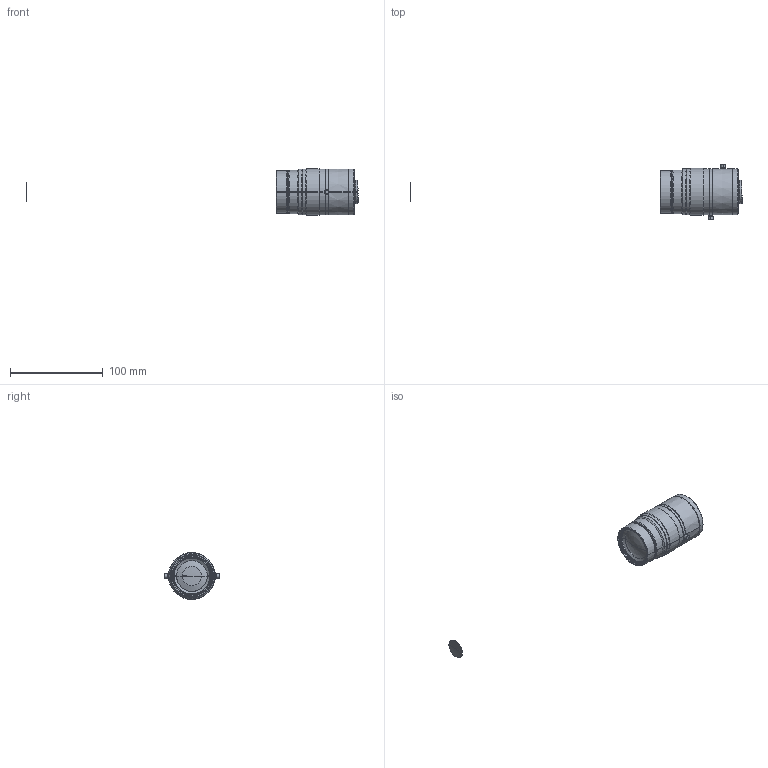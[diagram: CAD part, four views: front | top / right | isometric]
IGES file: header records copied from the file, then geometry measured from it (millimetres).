
Start section: SolidWorks IGES file using analytic representation for surfaces
Global section: file name: C:\Users\tsuji_vst\Documents\【図面】\_3D\00 VST\VS-LLD\LLD20\VS-LLD20.IGS; native system: SolidWorks 2017; preprocessor: SolidWorks 2017; author: tsuji_vst; date: 170529.101619; units: millimetre
Bounding box: 357.9 x 59.35 x 50.5 mm (x, y, z)
Surface area: 23890.7 mm2 (no closed solid volume)
Topology: 0 solids, 0 shells, 177 faces, 3512 edges, 3510 vertices
Faces by surface type: revolution 150, bspline 27
